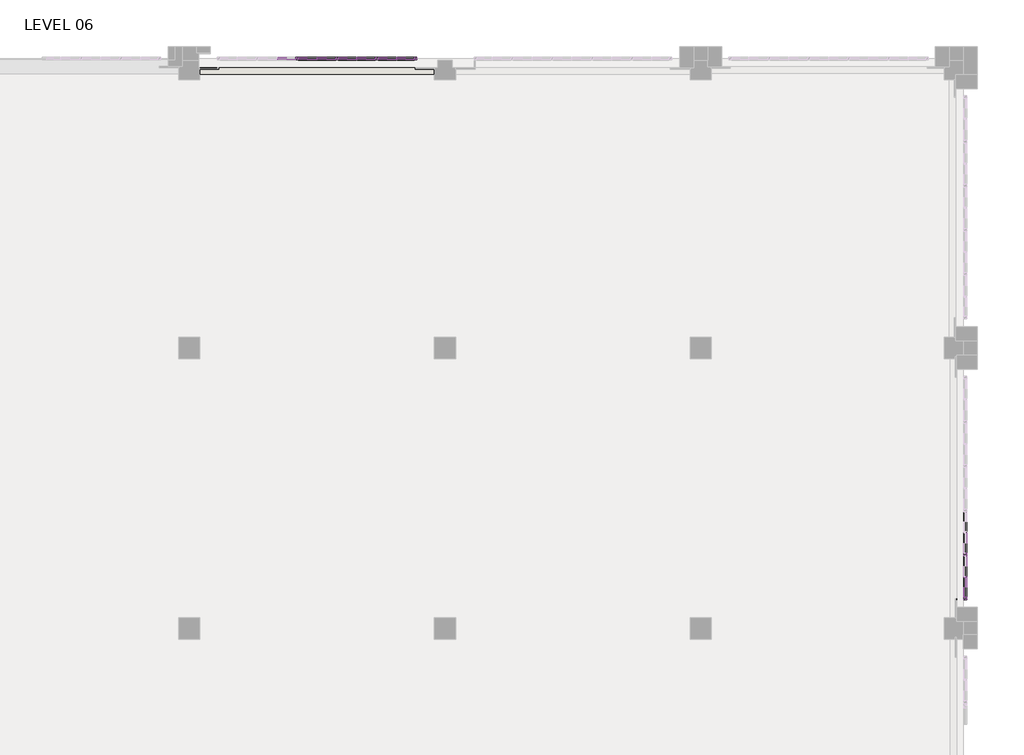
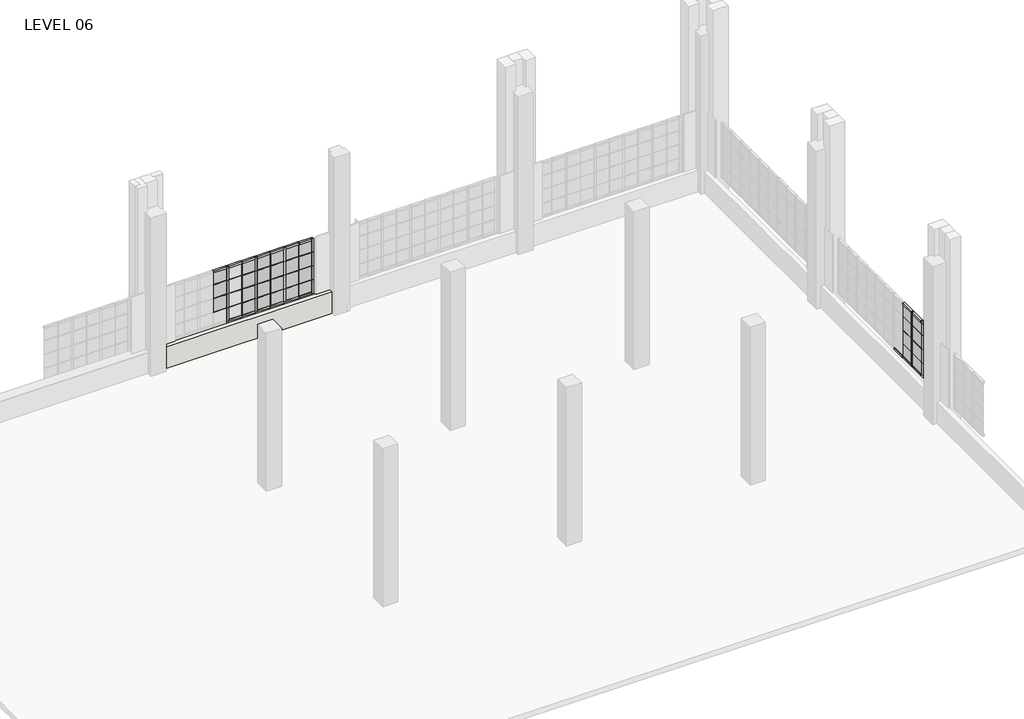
# One storey, part 11 of 16: 85 members, 35 plates, 2 walls.
"""IFC4 building model written with IfcOpenShell, lengths in millimetres."""

from ifc_helpers import new_model, si_unit, frame, origin, place, context, project, spatial, polyline, outline, extrude, transform, mapped, element, save
from components import member_78bb2ef1, member_d9fe2114, member_fd592df6, member_65fed7da, member_222a6065, member_378e0c06, member_17eb62f4, member_ba51e770, member_6e5aab5d, member_bacafba3, member_a6d649dc, member_5fd36c82, member_be3d8693, member_c617cc80, member_e5bd3e3e, system_panel_glazed_426cf27e, system_panel_glazed_31b69a49, system_panel_glazed_27b3d5e0, system_panel_glazed_92b1d792, system_panel_glazed_7cec7054, system_panel_glazed_37244fd0, system_panel_glazed_84a10c8e, system_panel_glazed_44697018, system_panel_glazed_99b9b709, system_panel_glazed_bf1454fd

model = new_model("IFC4")

# Units and contexts
model_context = context("Model", 3, world=origin())
ifc_project = project(units=[si_unit("LENGTHUNIT", "METRE", prefix="MILLI")], contexts=[model_context])

# Site, building, storey
site = spatial("IfcSite", under=ifc_project)
building = spatial("IfcBuilding", under=site)
storey = spatial("IfcBuildingStorey", under=building, Name="LEVEL 06", Elevation=17449.8)

# Members
placement = place(None, origin())
member_shape = member_78bb2ef1(model_context)
element("IfcMember", 1, ObjectType="Rectangular Mullion : 1\" x 1\" - Butt Joint", at=placement, inside=storey, context=model_context, shape_type="MappedRepresentation", body=[
    mapped(member_shape, transform((-445.6849596, -15322.6612602, 19989.8), x_axis=(0.0, 1.0, 0.0), y_axis=(1.0, 0.0, 0.0), z_axis=(0.0, 0.0, -1.0))),
])
element("IfcMember", 2, ObjectType="Rectangular Mullion : 1\" x 1\" - Butt Joint", at=placement, inside=storey, context=model_context, shape_type="MappedRepresentation", body=[
    mapped(member_shape, transform((-445.6849596, -15322.6612602, 18821.4), x_axis=(0.0, 1.0, 0.0), y_axis=(1.0, 0.0, 0.0), z_axis=(0.0, 0.0, -1.0))),
])
element("IfcMember", 3, ObjectType="Rectangular Mullion : 1\" x 1\" - Butt Joint", at=placement, inside=storey, context=model_context, shape_type="MappedRepresentation", body=[
    mapped(member_shape, transform((-445.6849596, -15322.6612602, 19405.6), x_axis=(0.0, 1.0, 0.0), y_axis=(1.0, 0.0, 0.0), z_axis=(0.0, 0.0, -1.0))),
])
element("IfcMember", 4, ObjectType="Rectangular Mullion : 1\" x 1\" - Butt Joint", at=placement, inside=storey, context=model_context, shape_type="MappedRepresentation", body=[
    mapped(member_shape, transform((-445.6849596, -15322.6612602, 18237.2), x_axis=(0.0, 1.0, 0.0), y_axis=(1.0, 0.0, 0.0), z_axis=(0.0, 0.0, -1.0))),
])
member_2_shape = member_d9fe2114(model_context)
element("IfcMember", 5, ObjectType="Rectangular Mullion : 1\" x 1\" - Butt Joint", at=placement, inside=storey, context=model_context, shape_type="MappedRepresentation", body=[
    mapped(member_2_shape, transform((-19708.3371519, -412.75, 19989.8), x_axis=(0.0, 0.0, 1.0), y_axis=(0.0, -1.0, 0.0), z_axis=(1.0, 0.0, 0.0))),
])
element("IfcMember", 6, ObjectType="Rectangular Mullion : 1\" x 1\" - Butt Joint", at=placement, inside=storey, context=model_context, shape_type="MappedRepresentation", body=[
    mapped(member_2_shape, transform((-18560.2571519, -412.75, 19989.8), x_axis=(0.0, 0.0, 1.0), y_axis=(0.0, -1.0, 0.0), z_axis=(1.0, 0.0, 0.0))),
])
element("IfcMember", 7, ObjectType="Rectangular Mullion : 1\" x 1\" - Butt Joint", at=placement, inside=storey, context=model_context, shape_type="MappedRepresentation", body=[
    mapped(member_2_shape, transform((-17412.1771519, -412.75, 19989.8), x_axis=(0.0, 0.0, 1.0), y_axis=(0.0, -1.0, 0.0), z_axis=(1.0, 0.0, 0.0))),
])
element("IfcMember", 8, ObjectType="Rectangular Mullion : 1\" x 1\" - Butt Joint", at=placement, inside=storey, context=model_context, shape_type="MappedRepresentation", body=[
    mapped(member_2_shape, transform((-19108.8971519, -412.75, 19989.8), x_axis=(0.0, 0.0, 1.0), y_axis=(0.0, -1.0, 0.0), z_axis=(1.0, 0.0, 0.0))),
])
element("IfcMember", 9, ObjectType="Rectangular Mullion : 1\" x 1\" - Butt Joint", at=placement, inside=storey, context=model_context, shape_type="MappedRepresentation", body=[
    mapped(member_2_shape, transform((-17960.8171519, -412.75, 19989.8), x_axis=(0.0, 0.0, 1.0), y_axis=(0.0, -1.0, 0.0), z_axis=(1.0, 0.0, 0.0))),
])
element("IfcMember", 10, ObjectType="Rectangular Mullion : 1\" x 1\" - Butt Joint", at=placement, inside=storey, context=model_context, shape_type="MappedRepresentation", body=[
    mapped(member_2_shape, transform((-16812.7371519, -412.75, 19989.8), x_axis=(0.0, 0.0, 1.0), y_axis=(0.0, -1.0, 0.0), z_axis=(1.0, 0.0, 0.0))),
])
element("IfcMember", 11, ObjectType="Rectangular Mullion : 1\" x 1\" - Butt Joint", at=placement, inside=storey, context=model_context, shape_type="MappedRepresentation", body=[
    mapped(member_2_shape, transform((-19708.3371519, -412.75, 19405.6), x_axis=(0.0, 0.0, 1.0), y_axis=(0.0, -1.0, 0.0), z_axis=(1.0, 0.0, 0.0))),
])
element("IfcMember", 12, ObjectType="Rectangular Mullion : 1\" x 1\" - Butt Joint", at=placement, inside=storey, context=model_context, shape_type="MappedRepresentation", body=[
    mapped(member_2_shape, transform((-18560.2571519, -412.75, 19405.6), x_axis=(0.0, 0.0, 1.0), y_axis=(0.0, -1.0, 0.0), z_axis=(1.0, 0.0, 0.0))),
])
element("IfcMember", 13, ObjectType="Rectangular Mullion : 1\" x 1\" - Butt Joint", at=placement, inside=storey, context=model_context, shape_type="MappedRepresentation", body=[
    mapped(member_2_shape, transform((-17412.1771519, -412.75, 19405.6), x_axis=(0.0, 0.0, 1.0), y_axis=(0.0, -1.0, 0.0), z_axis=(1.0, 0.0, 0.0))),
])
element("IfcMember", 14, ObjectType="Rectangular Mullion : 1\" x 1\" - Butt Joint", at=placement, inside=storey, context=model_context, shape_type="MappedRepresentation", body=[
    mapped(member_2_shape, transform((-19108.8971519, -412.75, 19405.6), x_axis=(0.0, 0.0, 1.0), y_axis=(0.0, -1.0, 0.0), z_axis=(1.0, 0.0, 0.0))),
])
element("IfcMember", 15, ObjectType="Rectangular Mullion : 1\" x 1\" - Butt Joint", at=placement, inside=storey, context=model_context, shape_type="MappedRepresentation", body=[
    mapped(member_2_shape, transform((-17960.8171519, -412.75, 19405.6), x_axis=(0.0, 0.0, 1.0), y_axis=(0.0, -1.0, 0.0), z_axis=(1.0, 0.0, 0.0))),
])
element("IfcMember", 16, ObjectType="Rectangular Mullion : 1\" x 1\" - Butt Joint", at=placement, inside=storey, context=model_context, shape_type="MappedRepresentation", body=[
    mapped(member_2_shape, transform((-16812.7371519, -412.75, 19405.6), x_axis=(0.0, 0.0, 1.0), y_axis=(0.0, -1.0, 0.0), z_axis=(1.0, 0.0, 0.0))),
])
element("IfcMember", 17, ObjectType="Rectangular Mullion : 1\" x 1\" - Butt Joint", at=placement, inside=storey, context=model_context, shape_type="MappedRepresentation", body=[
    mapped(member_2_shape, transform((-19708.3371519, -412.75, 18821.4), x_axis=(0.0, 0.0, 1.0), y_axis=(0.0, -1.0, 0.0), z_axis=(1.0, 0.0, 0.0))),
])
element("IfcMember", 18, ObjectType="Rectangular Mullion : 1\" x 1\" - Butt Joint", at=placement, inside=storey, context=model_context, shape_type="MappedRepresentation", body=[
    mapped(member_2_shape, transform((-18560.2571519, -412.75, 18821.4), x_axis=(0.0, 0.0, 1.0), y_axis=(0.0, -1.0, 0.0), z_axis=(1.0, 0.0, 0.0))),
])
element("IfcMember", 19, ObjectType="Rectangular Mullion : 1\" x 1\" - Butt Joint", at=placement, inside=storey, context=model_context, shape_type="MappedRepresentation", body=[
    mapped(member_2_shape, transform((-17412.1771519, -412.75, 18821.4), x_axis=(0.0, 0.0, 1.0), y_axis=(0.0, -1.0, 0.0), z_axis=(1.0, 0.0, 0.0))),
])
element("IfcMember", 20, ObjectType="Rectangular Mullion : 1\" x 1\" - Butt Joint", at=placement, inside=storey, context=model_context, shape_type="MappedRepresentation", body=[
    mapped(member_2_shape, transform((-19108.8971519, -412.75, 18821.4), x_axis=(0.0, 0.0, 1.0), y_axis=(0.0, -1.0, 0.0), z_axis=(1.0, 0.0, 0.0))),
])
element("IfcMember", 21, ObjectType="Rectangular Mullion : 1\" x 1\" - Butt Joint", at=placement, inside=storey, context=model_context, shape_type="MappedRepresentation", body=[
    mapped(member_2_shape, transform((-17960.8171519, -412.75, 18821.4), x_axis=(0.0, 0.0, 1.0), y_axis=(0.0, -1.0, 0.0), z_axis=(1.0, 0.0, 0.0))),
])
element("IfcMember", 22, ObjectType="Rectangular Mullion : 1\" x 1\" - Butt Joint", at=placement, inside=storey, context=model_context, shape_type="MappedRepresentation", body=[
    mapped(member_2_shape, transform((-16812.7371519, -412.75, 18821.4), x_axis=(0.0, 0.0, 1.0), y_axis=(0.0, -1.0, 0.0), z_axis=(1.0, 0.0, 0.0))),
])
member_3_shape = member_fd592df6(model_context)
element("IfcMember", 23, ObjectType="Rectangular Mullion : 1\" x 1\" - Butt Joint", at=placement, inside=storey, context=model_context, shape_type="MappedRepresentation", body=[
    mapped(member_3_shape, transform((-16302.1971519, -412.75, 19989.8), x_axis=(0.0, 0.0, 1.0), y_axis=(0.0, -1.0, 0.0), z_axis=(1.0, 0.0, 0.0))),
])
element("IfcMember", 24, ObjectType="Rectangular Mullion : 1\" x 1\" - Butt Joint", at=placement, inside=storey, context=model_context, shape_type="MappedRepresentation", body=[
    mapped(member_3_shape, transform((-16302.1971519, -412.75, 19405.6), x_axis=(0.0, 0.0, 1.0), y_axis=(0.0, -1.0, 0.0), z_axis=(1.0, 0.0, 0.0))),
])
element("IfcMember", 25, ObjectType="Rectangular Mullion : 1\" x 1\" - Butt Joint", at=placement, inside=storey, context=model_context, shape_type="MappedRepresentation", body=[
    mapped(member_3_shape, transform((-16302.1971519, -412.75, 18821.4), x_axis=(0.0, 0.0, 1.0), y_axis=(0.0, -1.0, 0.0), z_axis=(1.0, 0.0, 0.0))),
])
element("IfcMember", 26, ObjectType="Rectangular Mullion : 1\" x 1\" - Butt Joint", at=placement, inside=storey, context=model_context, shape_type="MappedRepresentation", body=[
    mapped(member_shape, transform((-16800.0371519, -412.75, 19989.8), x_axis=(1.0, 0.0, 0.0), y_axis=(0.0, -1.0, 0.0), z_axis=(0.0, 0.0, -1.0))),
])
element("IfcMember", 27, ObjectType="Rectangular Mullion : 1\" x 1\" - Butt Joint", at=placement, inside=storey, context=model_context, shape_type="MappedRepresentation", body=[
    mapped(member_shape, transform((-17948.1171519, -412.75, 19989.8), x_axis=(1.0, 0.0, 0.0), y_axis=(0.0, -1.0, 0.0), z_axis=(0.0, 0.0, -1.0))),
])
element("IfcMember", 28, ObjectType="Rectangular Mullion : 1\" x 1\" - Butt Joint", at=placement, inside=storey, context=model_context, shape_type="MappedRepresentation", body=[
    mapped(member_shape, transform((-19096.1971519, -412.75, 19989.8), x_axis=(1.0, 0.0, 0.0), y_axis=(0.0, -1.0, 0.0), z_axis=(0.0, 0.0, -1.0))),
])
element("IfcMember", 29, ObjectType="Rectangular Mullion : 1\" x 1\" - Butt Joint", at=placement, inside=storey, context=model_context, shape_type="MappedRepresentation", body=[
    mapped(member_shape, transform((-16800.0371519, -412.75, 18821.4), x_axis=(1.0, 0.0, 0.0), y_axis=(0.0, -1.0, 0.0), z_axis=(0.0, 0.0, -1.0))),
])
element("IfcMember", 30, ObjectType="Rectangular Mullion : 1\" x 1\" - Butt Joint", at=placement, inside=storey, context=model_context, shape_type="MappedRepresentation", body=[
    mapped(member_shape, transform((-16800.0371519, -412.75, 19405.6), x_axis=(1.0, 0.0, 0.0), y_axis=(0.0, -1.0, 0.0), z_axis=(0.0, 0.0, -1.0))),
])
element("IfcMember", 31, ObjectType="Rectangular Mullion : 1\" x 1\" - Butt Joint", at=placement, inside=storey, context=model_context, shape_type="MappedRepresentation", body=[
    mapped(member_shape, transform((-17948.1171519, -412.75, 18821.4), x_axis=(1.0, 0.0, 0.0), y_axis=(0.0, -1.0, 0.0), z_axis=(0.0, 0.0, -1.0))),
])
element("IfcMember", 32, ObjectType="Rectangular Mullion : 1\" x 1\" - Butt Joint", at=placement, inside=storey, context=model_context, shape_type="MappedRepresentation", body=[
    mapped(member_shape, transform((-17948.1171519, -412.75, 19405.6), x_axis=(1.0, 0.0, 0.0), y_axis=(0.0, -1.0, 0.0), z_axis=(0.0, 0.0, -1.0))),
])
element("IfcMember", 33, ObjectType="Rectangular Mullion : 1\" x 1\" - Butt Joint", at=placement, inside=storey, context=model_context, shape_type="MappedRepresentation", body=[
    mapped(member_shape, transform((-19096.1971519, -412.75, 18821.4), x_axis=(1.0, 0.0, 0.0), y_axis=(0.0, -1.0, 0.0), z_axis=(0.0, 0.0, -1.0))),
])
element("IfcMember", 34, ObjectType="Rectangular Mullion : 1\" x 1\" - Butt Joint", at=placement, inside=storey, context=model_context, shape_type="MappedRepresentation", body=[
    mapped(member_shape, transform((-19096.1971519, -412.75, 19405.6), x_axis=(1.0, 0.0, 0.0), y_axis=(0.0, -1.0, 0.0), z_axis=(0.0, 0.0, -1.0))),
])
element("IfcMember", 35, ObjectType="Rectangular Mullion : 1\" x 1\" - Butt Joint", at=placement, inside=storey, context=model_context, shape_type="MappedRepresentation", body=[
    mapped(member_shape, transform((-16800.0371519, -412.75, 18237.2), x_axis=(1.0, 0.0, 0.0), y_axis=(0.0, -1.0, 0.0), z_axis=(0.0, 0.0, -1.0))),
])
element("IfcMember", 36, ObjectType="Rectangular Mullion : 1\" x 1\" - Butt Joint", at=placement, inside=storey, context=model_context, shape_type="MappedRepresentation", body=[
    mapped(member_shape, transform((-17948.1171519, -412.75, 18237.2), x_axis=(1.0, 0.0, 0.0), y_axis=(0.0, -1.0, 0.0), z_axis=(0.0, 0.0, -1.0))),
])
element("IfcMember", 37, ObjectType="Rectangular Mullion : 1\" x 1\" - Butt Joint", at=placement, inside=storey, context=model_context, shape_type="MappedRepresentation", body=[
    mapped(member_shape, transform((-19096.1971519, -412.75, 18237.2), x_axis=(1.0, 0.0, 0.0), y_axis=(0.0, -1.0, 0.0), z_axis=(0.0, 0.0, -1.0))),
])
member_4_shape = member_65fed7da(model_context)
element("IfcMember", 38, ObjectType="Rectangular Mullion : 1\" x 1\" - Butt Joint", at=placement, inside=storey, context=model_context, shape_type="MappedRepresentation", body=[
    mapped(member_4_shape, transform((-445.6849596, -14718.1074832, 19989.8), x_axis=(0.0, 0.0, 1.0), y_axis=(1.0, 0.0, 0.0), z_axis=(0.0, 1.0, 0.0))),
])
member_5_shape = member_222a6065(model_context)
element("IfcMember", 39, ObjectType="Rectangular Mullion : 1\" x 1\" - Butt Joint", at=placement, inside=storey, context=model_context, shape_type="MappedRepresentation", body=[
    mapped(member_5_shape, transform((-445.6849596, -15335.3612602, 19989.8), x_axis=(0.0, 0.0, 1.0), y_axis=(1.0, 0.0, 0.0), z_axis=(0.0, 1.0, 0.0))),
])
element("IfcMember", 40, ObjectType="Rectangular Mullion : 1\" x 1\" - Butt Joint", at=placement, inside=storey, context=model_context, shape_type="MappedRepresentation", body=[
    mapped(member_5_shape, transform((-445.6849596, -15335.3612602, 19405.6), x_axis=(0.0, 0.0, 1.0), y_axis=(1.0, 0.0, 0.0), z_axis=(0.0, 1.0, 0.0))),
])
element("IfcMember", 41, ObjectType="Rectangular Mullion : 1\" x 1\" - Butt Joint", at=placement, inside=storey, context=model_context, shape_type="MappedRepresentation", body=[
    mapped(member_5_shape, transform((-445.6849596, -15335.3612602, 18821.4), x_axis=(0.0, 0.0, 1.0), y_axis=(1.0, 0.0, 0.0), z_axis=(0.0, 1.0, 0.0))),
])
member_6_shape = member_378e0c06(model_context)
element("IfcMember", 42, ObjectType="Rectangular Mullion : 3\" x 3\" Window Jamb", at=placement, inside=storey, context=model_context, shape_type="MappedRepresentation", body=[
    mapped(member_6_shape, transform((-445.6849596, -14680.0074832, 19989.8), x_axis=(0.0, 1.0, 0.0), y_axis=(1.0, 0.0, 0.0), z_axis=(0.0, 0.0, -1.0))),
])
member_7_shape = member_17eb62f4(model_context)
element("IfcMember", 43, ObjectType="Rectangular Mullion : 3\" x 3\" Window Jamb", at=placement, inside=storey, context=model_context, shape_type="MappedRepresentation", body=[
    mapped(member_7_shape, transform((-445.6849596, -15980.9569558, 20574.0), x_axis=(0.0, -1.0, 0.0), y_axis=(1.0, 0.0, 0.0), z_axis=(0.0, 0.0, 1.0))),
])
element("IfcMember", 44, ObjectType="Rectangular Mullion : 3\" x 3\" Window Jamb", at=placement, inside=storey, context=model_context, shape_type="MappedRepresentation", body=[
    mapped(member_6_shape, transform((-445.6849596, -14680.0074832, 18821.4), x_axis=(0.0, 1.0, 0.0), y_axis=(1.0, 0.0, 0.0), z_axis=(0.0, 0.0, -1.0))),
])
element("IfcMember", 45, ObjectType="Rectangular Mullion : 3\" x 3\" Window Jamb", at=placement, inside=storey, context=model_context, shape_type="MappedRepresentation", body=[
    mapped(member_6_shape, transform((-445.6849596, -14680.0074832, 19405.6), x_axis=(0.0, 1.0, 0.0), y_axis=(1.0, 0.0, 0.0), z_axis=(0.0, 0.0, -1.0))),
])
element("IfcMember", 46, ObjectType="Rectangular Mullion : 3\" x 3\" Window Jamb", at=placement, inside=storey, context=model_context, shape_type="MappedRepresentation", body=[
    mapped(member_7_shape, transform((-445.6849596, -15980.9569558, 19989.8), x_axis=(0.0, -1.0, 0.0), y_axis=(1.0, 0.0, 0.0), z_axis=(0.0, 0.0, 1.0))),
])
element("IfcMember", 47, ObjectType="Rectangular Mullion : 3\" x 3\" Window Jamb", at=placement, inside=storey, context=model_context, shape_type="MappedRepresentation", body=[
    mapped(member_7_shape, transform((-445.6849596, -15980.9569558, 19405.6), x_axis=(0.0, -1.0, 0.0), y_axis=(1.0, 0.0, 0.0), z_axis=(0.0, 0.0, 1.0))),
])
element("IfcMember", 48, ObjectType="Rectangular Mullion : 3\" x 3\" Window Jamb", at=placement, inside=storey, context=model_context, shape_type="MappedRepresentation", body=[
    mapped(member_6_shape, transform((-445.6849596, -14680.0074832, 18237.2), x_axis=(0.0, 1.0, 0.0), y_axis=(1.0, 0.0, 0.0), z_axis=(0.0, 0.0, -1.0))),
])
element("IfcMember", 49, ObjectType="Rectangular Mullion : 3\" x 3\" Window Jamb", at=placement, inside=storey, context=model_context, shape_type="MappedRepresentation", body=[
    mapped(member_7_shape, transform((-445.6849596, -15980.9569558, 18821.4), x_axis=(0.0, -1.0, 0.0), y_axis=(1.0, 0.0, 0.0), z_axis=(0.0, 0.0, 1.0))),
])
member_8_shape = member_ba51e770(model_context)
element("IfcMember", 50, ObjectType="Rectangular Mullion : 3\" x 3\" Window Jamb", at=placement, inside=storey, context=model_context, shape_type="MappedRepresentation", body=[
    mapped(member_8_shape, transform((-16302.1971519, -412.75, 20574.0), x_axis=(0.0, 0.0, 1.0), y_axis=(0.0, -1.0, 0.0), z_axis=(1.0, 0.0, 0.0))),
])
member_9_shape = member_6e5aab5d(model_context)
element("IfcMember", 51, ObjectType="Rectangular Mullion : 3\" x 3\" Window Jamb", at=placement, inside=storey, context=model_context, shape_type="MappedRepresentation", body=[
    mapped(member_9_shape, transform((-19108.8971519, -412.75, 20574.0), x_axis=(0.0, 0.0, 1.0), y_axis=(0.0, -1.0, 0.0), z_axis=(1.0, 0.0, 0.0))),
])
element("IfcMember", 52, ObjectType="Rectangular Mullion : 3\" x 3\" Window Jamb", at=placement, inside=storey, context=model_context, shape_type="MappedRepresentation", body=[
    mapped(member_9_shape, transform((-17960.8171519, -412.75, 20574.0), x_axis=(0.0, 0.0, 1.0), y_axis=(0.0, -1.0, 0.0), z_axis=(1.0, 0.0, 0.0))),
])
element("IfcMember", 53, ObjectType="Rectangular Mullion : 3\" x 3\" Window Jamb", at=placement, inside=storey, context=model_context, shape_type="MappedRepresentation", body=[
    mapped(member_9_shape, transform((-16812.7371519, -412.75, 20574.0), x_axis=(0.0, 0.0, 1.0), y_axis=(0.0, -1.0, 0.0), z_axis=(1.0, 0.0, 0.0))),
])
element("IfcMember", 54, ObjectType="Rectangular Mullion : 3\" x 3\" Window Jamb", at=placement, inside=storey, context=model_context, shape_type="MappedRepresentation", body=[
    mapped(member_9_shape, transform((-19708.3371519, -412.75, 20574.0), x_axis=(0.0, 0.0, 1.0), y_axis=(0.0, -1.0, 0.0), z_axis=(1.0, 0.0, 0.0))),
])
element("IfcMember", 55, ObjectType="Rectangular Mullion : 3\" x 3\" Window Jamb", at=placement, inside=storey, context=model_context, shape_type="MappedRepresentation", body=[
    mapped(member_9_shape, transform((-18560.2571519, -412.75, 20574.0), x_axis=(0.0, 0.0, 1.0), y_axis=(0.0, -1.0, 0.0), z_axis=(1.0, 0.0, 0.0))),
])
element("IfcMember", 56, ObjectType="Rectangular Mullion : 3\" x 3\" Window Jamb", at=placement, inside=storey, context=model_context, shape_type="MappedRepresentation", body=[
    mapped(member_9_shape, transform((-17412.1771519, -412.75, 20574.0), x_axis=(0.0, 0.0, 1.0), y_axis=(0.0, -1.0, 0.0), z_axis=(1.0, 0.0, 0.0))),
])
element("IfcMember", 57, ObjectType="Rectangular Mullion : 3\" x 3\" Window Jamb", at=placement, inside=storey, context=model_context, shape_type="MappedRepresentation", body=[
    mapped(member_9_shape, transform((-19083.4971519, -412.75, 18237.2), x_axis=(0.0, 0.0, -1.0), y_axis=(0.0, -1.0, 0.0), z_axis=(-1.0, 0.0, 0.0))),
])
element("IfcMember", 58, ObjectType="Rectangular Mullion : 3\" x 3\" Window Jamb", at=placement, inside=storey, context=model_context, shape_type="MappedRepresentation", body=[
    mapped(member_9_shape, transform((-17935.4171519, -412.75, 18237.2), x_axis=(0.0, 0.0, -1.0), y_axis=(0.0, -1.0, 0.0), z_axis=(-1.0, 0.0, 0.0))),
])
element("IfcMember", 59, ObjectType="Rectangular Mullion : 3\" x 3\" Window Jamb", at=placement, inside=storey, context=model_context, shape_type="MappedRepresentation", body=[
    mapped(member_9_shape, transform((-19632.1371519, -412.75, 18237.2), x_axis=(0.0, 0.0, -1.0), y_axis=(0.0, -1.0, 0.0), z_axis=(-1.0, 0.0, 0.0))),
])
element("IfcMember", 60, ObjectType="Rectangular Mullion : 3\" x 3\" Window Jamb", at=placement, inside=storey, context=model_context, shape_type="MappedRepresentation", body=[
    mapped(member_9_shape, transform((-18484.0571519, -412.75, 18237.2), x_axis=(0.0, 0.0, -1.0), y_axis=(0.0, -1.0, 0.0), z_axis=(-1.0, 0.0, 0.0))),
])
element("IfcMember", 61, ObjectType="Rectangular Mullion : 3\" x 3\" Window Jamb", at=placement, inside=storey, context=model_context, shape_type="MappedRepresentation", body=[
    mapped(member_9_shape, transform((-17335.9771519, -412.75, 18237.2), x_axis=(0.0, 0.0, -1.0), y_axis=(0.0, -1.0, 0.0), z_axis=(-1.0, 0.0, 0.0))),
])
element("IfcMember", 62, ObjectType="Rectangular Mullion : 3\" x 3\" Window Jamb", at=placement, inside=storey, context=model_context, shape_type="MappedRepresentation", body=[
    mapped(member_8_shape, transform((-16787.3371519, -412.75, 18237.2), x_axis=(0.0, 0.0, -1.0), y_axis=(0.0, -1.0, 0.0), z_axis=(-1.0, 0.0, 0.0))),
])
member_10_shape = member_bacafba3(model_context)
element("IfcMember", 63, ObjectType="Rectangular Mullion : 3\" x 3\" Window Jamb", at=placement, inside=storey, context=model_context, shape_type="MappedRepresentation", body=[
    mapped(member_10_shape, transform((-17374.0771519, -412.75, 19989.8), x_axis=(1.0, 0.0, 0.0), y_axis=(0.0, -1.0, 0.0), z_axis=(0.0, 0.0, -1.0))),
])
element("IfcMember", 64, ObjectType="Rectangular Mullion : 3\" x 3\" Window Jamb", at=placement, inside=storey, context=model_context, shape_type="MappedRepresentation", body=[
    mapped(member_10_shape, transform((-18522.1571519, -412.75, 19989.8), x_axis=(1.0, 0.0, 0.0), y_axis=(0.0, -1.0, 0.0), z_axis=(0.0, 0.0, -1.0))),
])
element("IfcMember", 65, ObjectType="Rectangular Mullion : 3\" x 3\" Window Jamb", at=placement, inside=storey, context=model_context, shape_type="MappedRepresentation", body=[
    mapped(member_10_shape, transform((-19670.2371519, -412.75, 19989.8), x_axis=(1.0, 0.0, 0.0), y_axis=(0.0, -1.0, 0.0), z_axis=(0.0, 0.0, -1.0))),
])
element("IfcMember", 66, ObjectType="Rectangular Mullion : 3\" x 3\" Window Jamb", at=placement, inside=storey, context=model_context, shape_type="MappedRepresentation", body=[
    mapped(member_10_shape, transform((-17374.0771519, -412.75, 18821.4), x_axis=(1.0, 0.0, 0.0), y_axis=(0.0, -1.0, 0.0), z_axis=(0.0, 0.0, -1.0))),
])
element("IfcMember", 67, ObjectType="Rectangular Mullion : 3\" x 3\" Window Jamb", at=placement, inside=storey, context=model_context, shape_type="MappedRepresentation", body=[
    mapped(member_10_shape, transform((-17374.0771519, -412.75, 19405.6), x_axis=(1.0, 0.0, 0.0), y_axis=(0.0, -1.0, 0.0), z_axis=(0.0, 0.0, -1.0))),
])
element("IfcMember", 68, ObjectType="Rectangular Mullion : 3\" x 3\" Window Jamb", at=placement, inside=storey, context=model_context, shape_type="MappedRepresentation", body=[
    mapped(member_10_shape, transform((-18522.1571519, -412.75, 18821.4), x_axis=(1.0, 0.0, 0.0), y_axis=(0.0, -1.0, 0.0), z_axis=(0.0, 0.0, -1.0))),
])
element("IfcMember", 69, ObjectType="Rectangular Mullion : 3\" x 3\" Window Jamb", at=placement, inside=storey, context=model_context, shape_type="MappedRepresentation", body=[
    mapped(member_10_shape, transform((-18522.1571519, -412.75, 19405.6), x_axis=(1.0, 0.0, 0.0), y_axis=(0.0, -1.0, 0.0), z_axis=(0.0, 0.0, -1.0))),
])
element("IfcMember", 70, ObjectType="Rectangular Mullion : 3\" x 3\" Window Jamb", at=placement, inside=storey, context=model_context, shape_type="MappedRepresentation", body=[
    mapped(member_10_shape, transform((-19670.2371519, -412.75, 18821.4), x_axis=(1.0, 0.0, 0.0), y_axis=(0.0, -1.0, 0.0), z_axis=(0.0, 0.0, -1.0))),
])
element("IfcMember", 71, ObjectType="Rectangular Mullion : 3\" x 3\" Window Jamb", at=placement, inside=storey, context=model_context, shape_type="MappedRepresentation", body=[
    mapped(member_10_shape, transform((-19670.2371519, -412.75, 19405.6), x_axis=(1.0, 0.0, 0.0), y_axis=(0.0, -1.0, 0.0), z_axis=(0.0, 0.0, -1.0))),
])
element("IfcMember", 72, ObjectType="Rectangular Mullion : 3\" x 3\" Window Jamb", at=placement, inside=storey, context=model_context, shape_type="MappedRepresentation", body=[
    mapped(member_10_shape, transform((-17374.0771519, -412.75, 18237.2), x_axis=(1.0, 0.0, 0.0), y_axis=(0.0, -1.0, 0.0), z_axis=(0.0, 0.0, -1.0))),
])
element("IfcMember", 73, ObjectType="Rectangular Mullion : 3\" x 3\" Window Jamb", at=placement, inside=storey, context=model_context, shape_type="MappedRepresentation", body=[
    mapped(member_10_shape, transform((-18522.1571519, -412.75, 18237.2), x_axis=(1.0, 0.0, 0.0), y_axis=(0.0, -1.0, 0.0), z_axis=(0.0, 0.0, -1.0))),
])
element("IfcMember", 74, ObjectType="Rectangular Mullion : 3\" x 3\" Window Jamb", at=placement, inside=storey, context=model_context, shape_type="MappedRepresentation", body=[
    mapped(member_10_shape, transform((-19670.2371519, -412.75, 18237.2), x_axis=(1.0, 0.0, 0.0), y_axis=(0.0, -1.0, 0.0), z_axis=(0.0, 0.0, -1.0))),
])
member_11_shape = member_a6d649dc(model_context)
element("IfcMember", 75, ObjectType="Rectangular Mullion : 3\" x 3\" Window Jamb", at=placement, inside=storey, context=model_context, shape_type="MappedRepresentation", body=[
    mapped(member_11_shape, transform((-16225.9971519, -412.75, 19989.8), x_axis=(1.0, 0.0, 0.0), y_axis=(0.0, -1.0, 0.0), z_axis=(0.0, 0.0, -1.0))),
])
element("IfcMember", 76, ObjectType="Rectangular Mullion : 3\" x 3\" Window Jamb", at=placement, inside=storey, context=model_context, shape_type="MappedRepresentation", body=[
    mapped(member_11_shape, transform((-16225.9971519, -412.75, 18821.4), x_axis=(1.0, 0.0, 0.0), y_axis=(0.0, -1.0, 0.0), z_axis=(0.0, 0.0, -1.0))),
])
element("IfcMember", 77, ObjectType="Rectangular Mullion : 3\" x 3\" Window Jamb", at=placement, inside=storey, context=model_context, shape_type="MappedRepresentation", body=[
    mapped(member_11_shape, transform((-16225.9971519, -412.75, 19405.6), x_axis=(1.0, 0.0, 0.0), y_axis=(0.0, -1.0, 0.0), z_axis=(0.0, 0.0, -1.0))),
])
element("IfcMember", 78, ObjectType="Rectangular Mullion : 3\" x 3\" Window Jamb", at=placement, inside=storey, context=model_context, shape_type="MappedRepresentation", body=[
    mapped(member_11_shape, transform((-16225.9971519, -412.75, 18237.2), x_axis=(1.0, 0.0, 0.0), y_axis=(0.0, -1.0, 0.0), z_axis=(0.0, 0.0, -1.0))),
])
member_12_shape = member_5fd36c82(model_context)
element("IfcMember", 79, ObjectType="Rectangular Mullion : 3\" x 3\" Window Jamb", at=placement, inside=storey, context=model_context, shape_type="MappedRepresentation", body=[
    mapped(member_12_shape, transform((-445.6849596, -14025.1198691, 18237.2), x_axis=(0.0, 0.0, -1.0), y_axis=(1.0, 0.0, 0.0), z_axis=(0.0, -1.0, 0.0))),
])
member_13_shape = member_be3d8693(model_context)
element("IfcMember", 80, ObjectType="Rectangular Mullion : 3\" x 3\" Window Jamb", at=placement, inside=storey, context=model_context, shape_type="MappedRepresentation", body=[
    mapped(member_13_shape, transform((-445.6849596, -14050.5198691, 20574.0), x_axis=(0.0, 0.0, 1.0), y_axis=(1.0, 0.0, 0.0), z_axis=(0.0, 1.0, 0.0))),
])
element("IfcMember", 81, ObjectType="Rectangular Mullion : 3\" x 3\" Window Jamb", at=placement, inside=storey, context=model_context, shape_type="MappedRepresentation", body=[
    mapped(member_13_shape, transform((-445.6849596, -14641.9074832, 18237.2), x_axis=(0.0, 0.0, -1.0), y_axis=(1.0, 0.0, 0.0), z_axis=(0.0, -1.0, 0.0))),
])
member_14_shape = member_c617cc80(model_context)
element("IfcMember", 82, ObjectType="Rectangular Mullion : 3\" x 3\" Window Jamb", at=placement, inside=storey, context=model_context, shape_type="MappedRepresentation", body=[
    mapped(member_14_shape, transform((-445.6849596, -15335.3612602, 20574.0), x_axis=(0.0, 0.0, 1.0), y_axis=(1.0, 0.0, 0.0), z_axis=(0.0, 1.0, 0.0))),
])
member_15_shape = member_e5bd3e3e(model_context)
element("IfcMember", 83, ObjectType="Rectangular Mullion : 3\" x 3\" Window Jamb", at=placement, inside=storey, context=model_context, shape_type="MappedRepresentation", body=[
    mapped(member_15_shape, transform((-445.6849596, -14718.1074832, 20574.0), x_axis=(0.0, 0.0, 1.0), y_axis=(1.0, 0.0, 0.0), z_axis=(0.0, 1.0, 0.0))),
])
element("IfcMember", 84, ObjectType="Rectangular Mullion : 3\" x 3\" Window Jamb", at=placement, inside=storey, context=model_context, shape_type="MappedRepresentation", body=[
    mapped(member_15_shape, transform((-445.6849596, -15309.9612602, 18237.2), x_axis=(0.0, 0.0, -1.0), y_axis=(1.0, 0.0, 0.0), z_axis=(0.0, -1.0, 0.0))),
])
element("IfcMember", 85, ObjectType="Rectangular Mullion : 3\" x 3\" Window Jamb", at=placement, inside=storey, context=model_context, shape_type="MappedRepresentation", body=[
    mapped(member_14_shape, transform((-445.6849596, -15904.7569558, 18237.2), x_axis=(0.0, 0.0, -1.0), y_axis=(1.0, 0.0, 0.0), z_axis=(0.0, -1.0, 0.0))),
])

# Plates
system_panel_glazed_shape = system_panel_glazed_426cf27e(model_context)
element("IfcPlate", 86, ObjectType="System Panel : Glazed", at=placement, inside=storey, context=model_context, shape_type="MappedRepresentation", body=[
    mapped(system_panel_glazed_shape, transform((-445.6849596, -15620.059108, 18313.4), x_axis=(0.0, 1.0, 0.0), y_axis=(-1.0, 0.0, 0.0), z_axis=(0.0, 0.0, 1.0))),
])
element("IfcPlate", 87, ObjectType="System Panel : Glazed", at=placement, inside=storey, context=model_context, shape_type="MappedRepresentation", body=[
    mapped(system_panel_glazed_shape, transform((-445.6849596, -15620.059108, 20002.5), x_axis=(0.0, 1.0, 0.0), y_axis=(-1.0, 0.0, 0.0), z_axis=(0.0, 0.0, 1.0))),
])
system_panel_glazed_2_shape = system_panel_glazed_31b69a49(model_context)
element("IfcPlate", 88, ObjectType="System Panel : Glazed", at=placement, inside=storey, context=model_context, shape_type="MappedRepresentation", body=[
    mapped(system_panel_glazed_2_shape, transform((-445.6849596, -14346.2136761, 18313.4), x_axis=(0.0, 1.0, 0.0), y_axis=(-1.0, 0.0, 0.0), z_axis=(0.0, 0.0, 1.0))),
])
element("IfcPlate", 89, ObjectType="System Panel : Glazed", at=placement, inside=storey, context=model_context, shape_type="MappedRepresentation", body=[
    mapped(system_panel_glazed_2_shape, transform((-445.6849596, -14346.2136761, 20002.5), x_axis=(0.0, 1.0, 0.0), y_axis=(-1.0, 0.0, 0.0), z_axis=(0.0, 0.0, 1.0))),
])
system_panel_glazed_3_shape = system_panel_glazed_27b3d5e0(model_context)
element("IfcPlate", 90, ObjectType="System Panel : Glazed", at=placement, inside=storey, context=model_context, shape_type="MappedRepresentation", body=[
    mapped(system_panel_glazed_3_shape, transform((-445.6849596, -15620.059108, 19418.3), x_axis=(0.0, 1.0, 0.0), y_axis=(-1.0, 0.0, 0.0), z_axis=(0.0, 0.0, 1.0))),
])
element("IfcPlate", 91, ObjectType="System Panel : Glazed", at=placement, inside=storey, context=model_context, shape_type="MappedRepresentation", body=[
    mapped(system_panel_glazed_3_shape, transform((-445.6849596, -15620.059108, 18834.1), x_axis=(0.0, 1.0, 0.0), y_axis=(-1.0, 0.0, 0.0), z_axis=(0.0, 0.0, 1.0))),
])
system_panel_glazed_4_shape = system_panel_glazed_92b1d792(model_context)
element("IfcPlate", 92, ObjectType="System Panel : Glazed", at=placement, inside=storey, context=model_context, shape_type="MappedRepresentation", body=[
    mapped(system_panel_glazed_4_shape, transform((-445.6849596, -14346.2136761, 19418.3), x_axis=(0.0, 1.0, 0.0), y_axis=(-1.0, 0.0, 0.0), z_axis=(0.0, 0.0, 1.0))),
])
element("IfcPlate", 93, ObjectType="System Panel : Glazed", at=placement, inside=storey, context=model_context, shape_type="MappedRepresentation", body=[
    mapped(system_panel_glazed_4_shape, transform((-445.6849596, -14346.2136761, 18834.1), x_axis=(0.0, 1.0, 0.0), y_axis=(-1.0, 0.0, 0.0), z_axis=(0.0, 0.0, 1.0))),
])
system_panel_glazed_5_shape = system_panel_glazed_7cec7054(model_context)
element("IfcPlate", 94, ObjectType="System Panel : Glazed", at=placement, inside=storey, context=model_context, shape_type="MappedRepresentation", body=[
    mapped(system_panel_glazed_5_shape, transform((-445.6849596, -15014.0343717, 18313.4), x_axis=(0.0, 1.0, 0.0), y_axis=(-1.0, 0.0, 0.0), z_axis=(0.0, 0.0, 1.0))),
])
element("IfcPlate", 95, ObjectType="System Panel : Glazed", at=placement, inside=storey, context=model_context, shape_type="MappedRepresentation", body=[
    mapped(system_panel_glazed_5_shape, transform((-445.6849596, -15014.0343717, 20002.5), x_axis=(0.0, 1.0, 0.0), y_axis=(-1.0, 0.0, 0.0), z_axis=(0.0, 0.0, 1.0))),
])
system_panel_glazed_6_shape = system_panel_glazed_37244fd0(model_context)
element("IfcPlate", 96, ObjectType="System Panel : Glazed", at=placement, inside=storey, context=model_context, shape_type="MappedRepresentation", body=[
    mapped(system_panel_glazed_6_shape, transform((-445.6849596, -15014.0343717, 18834.1), x_axis=(0.0, 1.0, 0.0), y_axis=(-1.0, 0.0, 0.0), z_axis=(0.0, 0.0, 1.0))),
])
element("IfcPlate", 97, ObjectType="System Panel : Glazed", at=placement, inside=storey, context=model_context, shape_type="MappedRepresentation", body=[
    mapped(system_panel_glazed_6_shape, transform((-445.6849596, -15014.0343717, 19418.3), x_axis=(0.0, 1.0, 0.0), y_axis=(-1.0, 0.0, 0.0), z_axis=(0.0, 0.0, 1.0))),
])
system_panel_glazed_7_shape = system_panel_glazed_84a10c8e(model_context)
element("IfcPlate", 98, ObjectType="System Panel : Glazed", at=placement, inside=storey, context=model_context, shape_type="MappedRepresentation", body=[
    mapped(system_panel_glazed_7_shape, transform((-16544.7671519, -412.75, 18313.4), x_axis=(1.0, 0.0, 0.0), y_axis=(0.0, 1.0, 0.0), z_axis=(0.0, 0.0, 1.0))),
])
element("IfcPlate", 99, ObjectType="System Panel : Glazed", at=placement, inside=storey, context=model_context, shape_type="MappedRepresentation", body=[
    mapped(system_panel_glazed_7_shape, transform((-16544.7671519, -412.75, 20002.5), x_axis=(1.0, 0.0, 0.0), y_axis=(0.0, 1.0, 0.0), z_axis=(0.0, 0.0, 1.0))),
])
system_panel_glazed_8_shape = system_panel_glazed_44697018(model_context)
element("IfcPlate", 100, ObjectType="System Panel : Glazed", at=placement, inside=storey, context=model_context, shape_type="MappedRepresentation", body=[
    mapped(system_panel_glazed_8_shape, transform((-17074.3571519, -412.75, 18313.4), x_axis=(1.0, 0.0, 0.0), y_axis=(0.0, 1.0, 0.0), z_axis=(0.0, 0.0, 1.0))),
])
element("IfcPlate", 101, ObjectType="System Panel : Glazed", at=placement, inside=storey, context=model_context, shape_type="MappedRepresentation", body=[
    mapped(system_panel_glazed_8_shape, transform((-18222.4371519, -412.75, 18313.4), x_axis=(1.0, 0.0, 0.0), y_axis=(0.0, 1.0, 0.0), z_axis=(0.0, 0.0, 1.0))),
])
element("IfcPlate", 102, ObjectType="System Panel : Glazed", at=placement, inside=storey, context=model_context, shape_type="MappedRepresentation", body=[
    mapped(system_panel_glazed_8_shape, transform((-18222.4371519, -412.75, 20002.5), x_axis=(1.0, 0.0, 0.0), y_axis=(0.0, 1.0, 0.0), z_axis=(0.0, 0.0, 1.0))),
])
element("IfcPlate", 103, ObjectType="System Panel : Glazed", at=placement, inside=storey, context=model_context, shape_type="MappedRepresentation", body=[
    mapped(system_panel_glazed_8_shape, transform((-17074.3571519, -412.75, 20002.5), x_axis=(1.0, 0.0, 0.0), y_axis=(0.0, 1.0, 0.0), z_axis=(0.0, 0.0, 1.0))),
])
element("IfcPlate", 104, ObjectType="System Panel : Glazed", at=placement, inside=storey, context=model_context, shape_type="MappedRepresentation", body=[
    mapped(system_panel_glazed_8_shape, transform((-17673.7971519, -412.75, 18313.4), x_axis=(1.0, 0.0, 0.0), y_axis=(0.0, 1.0, 0.0), z_axis=(0.0, 0.0, 1.0))),
])
element("IfcPlate", 105, ObjectType="System Panel : Glazed", at=placement, inside=storey, context=model_context, shape_type="MappedRepresentation", body=[
    mapped(system_panel_glazed_8_shape, transform((-17673.7971519, -412.75, 20002.5), x_axis=(1.0, 0.0, 0.0), y_axis=(0.0, 1.0, 0.0), z_axis=(0.0, 0.0, 1.0))),
])
element("IfcPlate", 106, ObjectType="System Panel : Glazed", at=placement, inside=storey, context=model_context, shape_type="MappedRepresentation", body=[
    mapped(system_panel_glazed_8_shape, transform((-18821.8771519, -412.75, 18313.4), x_axis=(1.0, 0.0, 0.0), y_axis=(0.0, 1.0, 0.0), z_axis=(0.0, 0.0, 1.0))),
])
element("IfcPlate", 107, ObjectType="System Panel : Glazed", at=placement, inside=storey, context=model_context, shape_type="MappedRepresentation", body=[
    mapped(system_panel_glazed_8_shape, transform((-18821.8771519, -412.75, 20002.5), x_axis=(1.0, 0.0, 0.0), y_axis=(0.0, 1.0, 0.0), z_axis=(0.0, 0.0, 1.0))),
])
element("IfcPlate", 108, ObjectType="System Panel : Glazed", at=placement, inside=storey, context=model_context, shape_type="MappedRepresentation", body=[
    mapped(system_panel_glazed_8_shape, transform((-19969.9571519, -412.75, 20002.5), x_axis=(1.0, 0.0, 0.0), y_axis=(0.0, 1.0, 0.0), z_axis=(0.0, 0.0, 1.0))),
])
system_panel_glazed_9_shape = system_panel_glazed_99b9b709(model_context)
element("IfcPlate", 109, ObjectType="System Panel : Glazed", at=placement, inside=storey, context=model_context, shape_type="MappedRepresentation", body=[
    mapped(system_panel_glazed_9_shape, transform((-16544.7671519, -412.75, 18834.1), x_axis=(1.0, 0.0, 0.0), y_axis=(0.0, 1.0, 0.0), z_axis=(0.0, 0.0, 1.0))),
])
element("IfcPlate", 110, ObjectType="System Panel : Glazed", at=placement, inside=storey, context=model_context, shape_type="MappedRepresentation", body=[
    mapped(system_panel_glazed_9_shape, transform((-16544.7671519, -412.75, 19418.3), x_axis=(1.0, 0.0, 0.0), y_axis=(0.0, 1.0, 0.0), z_axis=(0.0, 0.0, 1.0))),
])
system_panel_glazed_10_shape = system_panel_glazed_bf1454fd(model_context)
element("IfcPlate", 111, ObjectType="System Panel : Glazed", at=placement, inside=storey, context=model_context, shape_type="MappedRepresentation", body=[
    mapped(system_panel_glazed_10_shape, transform((-18222.4371519, -412.75, 19418.3), x_axis=(1.0, 0.0, 0.0), y_axis=(0.0, 1.0, 0.0), z_axis=(0.0, 0.0, 1.0))),
])
element("IfcPlate", 112, ObjectType="System Panel : Glazed", at=placement, inside=storey, context=model_context, shape_type="MappedRepresentation", body=[
    mapped(system_panel_glazed_10_shape, transform((-17074.3571519, -412.75, 19418.3), x_axis=(1.0, 0.0, 0.0), y_axis=(0.0, 1.0, 0.0), z_axis=(0.0, 0.0, 1.0))),
])
element("IfcPlate", 113, ObjectType="System Panel : Glazed", at=placement, inside=storey, context=model_context, shape_type="MappedRepresentation", body=[
    mapped(system_panel_glazed_10_shape, transform((-18222.4371519, -412.75, 18834.1), x_axis=(1.0, 0.0, 0.0), y_axis=(0.0, 1.0, 0.0), z_axis=(0.0, 0.0, 1.0))),
])
element("IfcPlate", 114, ObjectType="System Panel : Glazed", at=placement, inside=storey, context=model_context, shape_type="MappedRepresentation", body=[
    mapped(system_panel_glazed_10_shape, transform((-17074.3571519, -412.75, 18834.1), x_axis=(1.0, 0.0, 0.0), y_axis=(0.0, 1.0, 0.0), z_axis=(0.0, 0.0, 1.0))),
])
element("IfcPlate", 115, ObjectType="System Panel : Glazed", at=placement, inside=storey, context=model_context, shape_type="MappedRepresentation", body=[
    mapped(system_panel_glazed_10_shape, transform((-17673.7971519, -412.75, 18834.1), x_axis=(1.0, 0.0, 0.0), y_axis=(0.0, 1.0, 0.0), z_axis=(0.0, 0.0, 1.0))),
])
element("IfcPlate", 116, ObjectType="System Panel : Glazed", at=placement, inside=storey, context=model_context, shape_type="MappedRepresentation", body=[
    mapped(system_panel_glazed_10_shape, transform((-17673.7971519, -412.75, 19418.3), x_axis=(1.0, 0.0, 0.0), y_axis=(0.0, 1.0, 0.0), z_axis=(0.0, 0.0, 1.0))),
])
element("IfcPlate", 117, ObjectType="System Panel : Glazed", at=placement, inside=storey, context=model_context, shape_type="MappedRepresentation", body=[
    mapped(system_panel_glazed_10_shape, transform((-18821.8771519, -412.75, 18834.1), x_axis=(1.0, 0.0, 0.0), y_axis=(0.0, 1.0, 0.0), z_axis=(0.0, 0.0, 1.0))),
])
element("IfcPlate", 118, ObjectType="System Panel : Glazed", at=placement, inside=storey, context=model_context, shape_type="MappedRepresentation", body=[
    mapped(system_panel_glazed_10_shape, transform((-18821.8771519, -412.75, 19418.3), x_axis=(1.0, 0.0, 0.0), y_axis=(0.0, 1.0, 0.0), z_axis=(0.0, 0.0, 1.0))),
])
element("IfcPlate", 119, ObjectType="System Panel : Glazed", at=placement, inside=storey, context=model_context, shape_type="MappedRepresentation", body=[
    mapped(system_panel_glazed_10_shape, transform((-19969.9571519, -412.75, 18834.1), x_axis=(1.0, 0.0, 0.0), y_axis=(0.0, 1.0, 0.0), z_axis=(0.0, 0.0, 1.0))),
])
element("IfcPlate", 120, ObjectType="System Panel : Glazed", at=placement, inside=storey, context=model_context, shape_type="MappedRepresentation", body=[
    mapped(system_panel_glazed_10_shape, transform((-19969.9571519, -412.75, 19418.3), x_axis=(1.0, 0.0, 0.0), y_axis=(0.0, 1.0, 0.0), z_axis=(0.0, 0.0, 1.0))),
])

# Walls
element("IfcWall", 121, ObjectType="Partition A6_", at=placement, inside=storey, context=model_context, shape_type="SweptSolid", body=[
    extrude(outline(polyline([(-22467.4849596, -663.575), (-15717.4349596, -663.575), (-15717.4349596, -847.725), (-22467.4849596, -847.725), (-22467.4849596, -663.575)])), frame((0.0, 0.0, 17449.8), z_axis=(0.0, 0.0, 1.0), x_axis=(1.0, 0.0, 0.0)), (0.0, 0.0, 1.0), 914.4),
])
element("IfcWall", 122, ObjectType="Partition F0_", at=placement, inside=storey, context=model_context, shape_type="SweptSolid", body=[
    extrude(outline(polyline([(-677.4599596, -15980.9569558), (-685.3974596, -15980.9569558), (-685.3974596, -15946.0319558), (-677.4599596, -15946.0319558), (-677.4599596, -15980.9569558)])), frame((0.0, 0.0, 18364.2), z_axis=(0.0, 0.0, 1.0), x_axis=(1.0, 0.0, 0.0)), (0.0, 0.0, 1.0), 2438.4),
])

save(model, "model.ifc")
